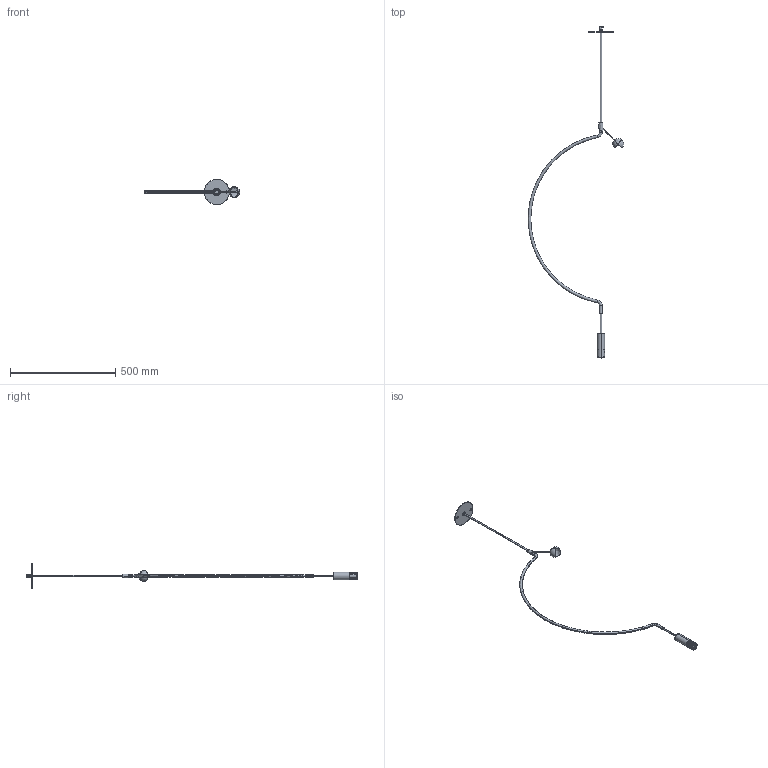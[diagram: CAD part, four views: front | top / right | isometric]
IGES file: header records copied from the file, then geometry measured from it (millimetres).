
Start section: SolidWorks IGES file using analytic representation for surfaces
Global section: file name: \\STORAGE\Tecnico Condiviso\1 FASCICOLI TECNICI\AXO DESIGN\AXO058-LIAISON\AXO01 Liaison - Fascicolo Tecnico 2018-11-20\AXO01.LS02 SO80 1 Luce\1.0A.AXO01.LS02.A1-3D\PENDENTE LIAISON INCASSO M-PER 3D.IGS; native system: SolidWorks 2024; preprocessor: SolidWorks 2024; author: tecnico3; date: 240529.120851; units: millimetre
Bounding box: 454.39 x 1580.79 x 120 mm (x, y, z)
Surface area: 198558.4 mm2 (no closed solid volume)
Topology: 0 solids, 0 shells, 482 faces, 8241 edges, 8174 vertices
Faces by surface type: bspline 251, revolution 231
